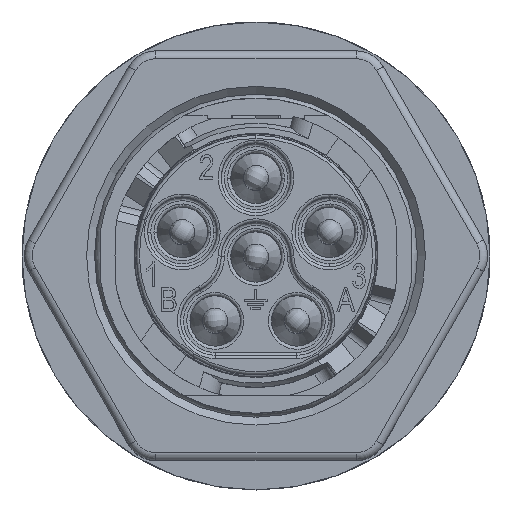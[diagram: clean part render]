
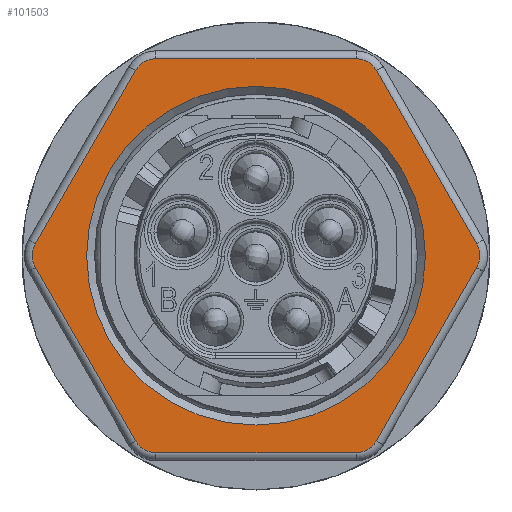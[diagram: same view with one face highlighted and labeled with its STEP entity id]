
A CAD part, top view. The second image highlights one B-rep face of the part: STEP entity #101503.
In plain terms, the highlighted planar face has unit normal (0, 0, 1).
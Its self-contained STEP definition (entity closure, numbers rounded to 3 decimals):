
#73 = VERTEX_POINT ( 'NONE', #47389 ) ;
#501 = ORIENTED_EDGE ( 'NONE', *, *, #32010, .T. ) ;
#1372 = EDGE_CURVE ( 'NONE', #73, #22016, #30604, .T. ) ;
#2609 = CIRCLE ( 'NONE', #60113, 1.5 ) ;
#3861 = VERTEX_POINT ( 'NONE', #67488 ) ;
#4052 = ORIENTED_EDGE ( 'NONE', *, *, #12375, .T. ) ;
#8685 = EDGE_CURVE ( 'NONE', #34275, #3861, #80312, .T. ) ;
#9810 = CARTESIAN_POINT ( 'NONE',  ( 5.152, -12.014, -22.651 ) ) ;
#10894 = DIRECTION ( 'NONE',  ( -0.5, -0.866, 0. ) ) ;
#11535 = VERTEX_POINT ( 'NONE', #74667 ) ;
#12375 = EDGE_CURVE ( 'NONE', #39986, #71906, #2609, .T. ) ;
#14249 = DIRECTION ( 'NONE',  ( -0.5, -0.866, 0. ) ) ;
#14351 = DIRECTION ( 'NONE',  ( -0.5, -0.866, 0. ) ) ;
#15694 = DIRECTION ( 'NONE',  ( -0.5, 0.866, 0. ) ) ;
#16313 = DIRECTION ( 'NONE',  ( 0., 0., 1. ) ) ;
#16542 = DIRECTION ( 'NONE',  ( -0.5, -0.866, 0. ) ) ;
#20820 = LINE ( 'NONE', #51684, #22770 ) ;
#21990 = DIRECTION ( 'NONE',  ( 0., 0., 1. ) ) ;
#22016 = VERTEX_POINT ( 'NONE', #34323 ) ;
#22543 = VECTOR ( 'NONE', #56752, 1000. ) ;
#22770 = VECTOR ( 'NONE', #52194, 1000. ) ;
#24916 = DIRECTION ( 'NONE',  ( -0.5, -0.866, 0. ) ) ;
#25669 = LINE ( 'NONE', #70960, #93286 ) ;
#25802 = VERTEX_POINT ( 'NONE', #98538 ) ;
#27318 = VECTOR ( 'NONE', #24916, 1000. ) ;
#27768 = DIRECTION ( 'NONE',  ( 0., 0., 1. ) ) ;
#27927 = ORIENTED_EDGE ( 'NONE', *, *, #96353, .T. ) ;
#29398 = DIRECTION ( 'NONE',  ( 0., 0., 1. ) ) ;
#30218 = ORIENTED_EDGE ( 'NONE', *, *, #78504, .T. ) ;
#30604 = CIRCLE ( 'NONE', #99650, 1.5 ) ;
#31227 = CARTESIAN_POINT ( 'NONE',  ( -7.55, -12.014, -22.651 ) ) ;
#32010 = EDGE_CURVE ( 'NONE', #66841, #66841, #35142, .T. ) ;
#32631 = LINE ( 'NONE', #64025, #27318 ) ;
#33328 = VERTEX_POINT ( 'NONE', #74687 ) ;
#34015 = ORIENTED_EDGE ( 'NONE', *, *, #8685, .T. ) ;
#34275 = VERTEX_POINT ( 'NONE', #96880 ) ;
#34323 = CARTESIAN_POINT ( 'NONE',  ( -7.55, -13.514, -22.651 ) ) ;
#34592 = CARTESIAN_POINT ( 'NONE',  ( 16.812, 5.182, -22.651 ) ) ;
#35014 = CIRCLE ( 'NONE', #35085, 1.5 ) ;
#35085 = AXIS2_PLACEMENT_3D ( 'NONE', #9810, #78268, #16542 ) ;
#35088 = FACE_OUTER_BOUND ( 'NONE', #53337, .T. ) ;
#35142 = CIRCLE ( 'NONE', #43366, 10.75 ) ;
#35269 = ORIENTED_EDGE ( 'NONE', *, *, #99856, .T. ) ;
#36291 = ORIENTED_EDGE ( 'NONE', *, *, #47138, .T. ) ;
#36984 = AXIS2_PLACEMENT_3D ( 'NONE', #55406, #16313, #47683 ) ;
#37332 = CARTESIAN_POINT ( 'NONE',  ( -1.199, -1.014, -22.651 ) ) ;
#39986 = VERTEX_POINT ( 'NONE', #89409 ) ;
#40588 = DIRECTION ( 'NONE',  ( 1., 0., 0. ) ) ;
#40639 = CARTESIAN_POINT ( 'NONE',  ( 12.802, -1.764, -22.651 ) ) ;
#43366 = AXIS2_PLACEMENT_3D ( 'NONE', #37332, #44039, #59988 ) ;
#44039 = DIRECTION ( 'NONE',  ( 0., 0., -1. ) ) ;
#45580 = ORIENTED_EDGE ( 'NONE', *, *, #50575, .T. ) ;
#47138 = EDGE_CURVE ( 'NONE', #11535, #34275, #99574, .T. ) ;
#47389 = CARTESIAN_POINT ( 'NONE',  ( -8.849, -12.764, -22.651 ) ) ;
#47683 = DIRECTION ( 'NONE',  ( -0.5, -0.866, 0. ) ) ;
#49705 = CARTESIAN_POINT ( 'NONE',  ( -8.849, 10.736, -22.651 ) ) ;
#50166 = VECTOR ( 'NONE', #92758, 1000. ) ;
#50575 = EDGE_CURVE ( 'NONE', #3861, #25802, #85558, .T. ) ;
#51684 = CARTESIAN_POINT ( 'NONE',  ( -10.205, -10.416, -22.651 ) ) ;
#51826 = AXIS2_PLACEMENT_3D ( 'NONE', #34592, #97862, #10894 ) ;
#51948 = EDGE_CURVE ( 'NONE', #25802, #71089, #53616, .T. ) ;
#52107 = VERTEX_POINT ( 'NONE', #40639 ) ;
#52194 = DIRECTION ( 'NONE',  ( 0.5, -0.866, 0. ) ) ;
#53156 = CARTESIAN_POINT ( 'NONE',  ( 16.812, 11.486, -22.651 ) ) ;
#53337 = EDGE_LOOP ( 'NONE', ( #45580, #80839, #99622, #4052, #67910, #81121, #70763, #27927, #30218, #35269, #36291, #34015 ) ) ;
#53432 = DIRECTION ( 'NONE',  ( 0., 0., 1. ) ) ;
#53616 = CIRCLE ( 'NONE', #66761, 1.5 ) ;
#53952 = DIRECTION ( 'NONE',  ( -0.5, -0.866, 0. ) ) ;
#55406 = CARTESIAN_POINT ( 'NONE',  ( 11.503, -1.014, -22.651 ) ) ;
#56752 = DIRECTION ( 'NONE',  ( 0.5, 0.866, 0. ) ) ;
#59988 = DIRECTION ( 'NONE',  ( -0.5, -0.866, 0. ) ) ;
#60113 = AXIS2_PLACEMENT_3D ( 'NONE', #61158, #53432, #53952 ) ;
#61158 = CARTESIAN_POINT ( 'NONE',  ( -13.901, -1.014, -22.651 ) ) ;
#61789 = CARTESIAN_POINT ( 'NONE',  ( -7.55, 9.986, -22.651 ) ) ;
#62748 = CARTESIAN_POINT ( 'NONE',  ( -15.2, -1.764, -22.651 ) ) ;
#62966 = CARTESIAN_POINT ( 'NONE',  ( 16.812, 5.182, -22.651 ) ) ;
#64025 = CARTESIAN_POINT ( 'NONE',  ( -4.838, 17.682, -22.651 ) ) ;
#65386 = VERTEX_POINT ( 'NONE', #77594 ) ;
#66473 = PLANE ( 'NONE',  #51826 ) ;
#66761 = AXIS2_PLACEMENT_3D ( 'NONE', #61789, #29398, #75687 ) ;
#66841 = VERTEX_POINT ( 'NONE', #76457 ) ;
#67488 = CARTESIAN_POINT ( 'NONE',  ( 5.152, 11.486, -22.651 ) ) ;
#67910 = ORIENTED_EDGE ( 'NONE', *, *, #82869, .T. ) ;
#70763 = ORIENTED_EDGE ( 'NONE', *, *, #73323, .T. ) ;
#70910 = EDGE_CURVE ( 'NONE', #71089, #39986, #32631, .T. ) ;
#70960 = CARTESIAN_POINT ( 'NONE',  ( 16.812, -13.514, -22.651 ) ) ;
#71089 = VERTEX_POINT ( 'NONE', #49705 ) ;
#71906 = VERTEX_POINT ( 'NONE', #62748 ) ;
#73323 = EDGE_CURVE ( 'NONE', #22016, #65386, #25669, .T. ) ;
#74667 = CARTESIAN_POINT ( 'NONE',  ( 12.802, -0.264, -22.651 ) ) ;
#74687 = CARTESIAN_POINT ( 'NONE',  ( 6.451, -12.764, -22.651 ) ) ;
#75687 = DIRECTION ( 'NONE',  ( -0.5, -0.866, 0. ) ) ;
#76457 = CARTESIAN_POINT ( 'NONE',  ( -6.574, -10.324, -22.651 ) ) ;
#77594 = CARTESIAN_POINT ( 'NONE',  ( 5.152, -13.514, -22.651 ) ) ;
#78268 = DIRECTION ( 'NONE',  ( 0., 0., 1. ) ) ;
#78504 = EDGE_CURVE ( 'NONE', #33328, #52107, #79897, .T. ) ;
#79751 = EDGE_LOOP ( 'NONE', ( #501 ) ) ;
#79897 = LINE ( 'NONE', #62966, #22543 ) ;
#80312 = CIRCLE ( 'NONE', #88531, 1.5 ) ;
#80839 = ORIENTED_EDGE ( 'NONE', *, *, #51948, .T. ) ;
#81121 = ORIENTED_EDGE ( 'NONE', *, *, #1372, .T. ) ;
#81163 = VECTOR ( 'NONE', #15694, 1000. ) ;
#82869 = EDGE_CURVE ( 'NONE', #71906, #73, #20820, .T. ) ;
#85558 = LINE ( 'NONE', #53156, #50166 ) ;
#88531 = AXIS2_PLACEMENT_3D ( 'NONE', #98246, #27768, #14351 ) ;
#89409 = CARTESIAN_POINT ( 'NONE',  ( -15.2, -0.264, -22.651 ) ) ;
#91181 = CIRCLE ( 'NONE', #36984, 1.5 ) ;
#92758 = DIRECTION ( 'NONE',  ( -1., 0., 0. ) ) ;
#93286 = VECTOR ( 'NONE', #40588, 1000. ) ;
#96353 = EDGE_CURVE ( 'NONE', #65386, #33328, #35014, .T. ) ;
#96880 = CARTESIAN_POINT ( 'NONE',  ( 6.451, 10.736, -22.651 ) ) ;
#97862 = DIRECTION ( 'NONE',  ( 0., 0., -1. ) ) ;
#98246 = CARTESIAN_POINT ( 'NONE',  ( 5.152, 9.986, -22.651 ) ) ;
#98381 = FACE_BOUND ( 'NONE', #79751, .T. ) ;
#98538 = CARTESIAN_POINT ( 'NONE',  ( -7.55, 11.486, -22.651 ) ) ;
#99574 = LINE ( 'NONE', #100096, #81163 ) ;
#99622 = ORIENTED_EDGE ( 'NONE', *, *, #70910, .T. ) ;
#99650 = AXIS2_PLACEMENT_3D ( 'NONE', #31227, #21990, #14249 ) ;
#99856 = EDGE_CURVE ( 'NONE', #52107, #11535, #91181, .T. ) ;
#100096 = CARTESIAN_POINT ( 'NONE',  ( 11.446, 2.084, -22.651 ) ) ;
#101503 = ADVANCED_FACE ( 'NONE', ( #98381, #35088 ), #66473, .F. ) ;
